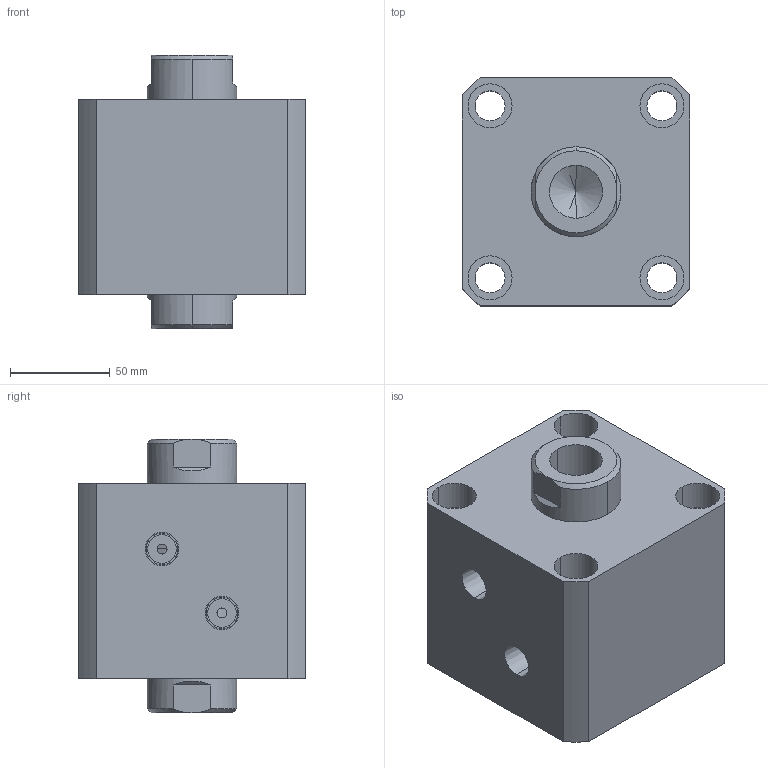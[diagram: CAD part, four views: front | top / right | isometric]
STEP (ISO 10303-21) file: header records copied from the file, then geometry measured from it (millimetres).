
FILE_DESCRIPTION (( 'STEP AP214' ), '1' );
FILE_NAME ('chtb-sw80x5n_asm.STEP', '2018-05-28T00:43:53', ( 'Windows' ), ( 'Microsoft' ), 'SwSTEP 2.0', 'SolidWorks 2015', '' );
FILE_SCHEMA (( 'AUTOMOTIVE_DESIGN' ));
Length unit declared in the file: millimetre
Products named in the file (4): CHTB-SW80X5NBT; CHTB-SD80X5NHSG; CHTB-SD80QG; chtb-sw80x5n_asm
Assembly tree (3 placements, depth 2):
  chtb-sw80x5n_asm
    CHTB-SD80QG
    CHTB-SD80X5NHSG
    CHTB-SW80X5NBT
Bounding box: 114 x 114 x 137 mm (x, y, z)
Volume: 1144151.8 mm3; surface area: 175525.7 mm2
Topology: 3 solids, 3 shells, 208 faces, 550 edges, 365 vertices
Faces by surface type: cylinder 109, plane 42, cone 25, torus 18, bspline 14
Entity records: 15645 total; most frequent: CARTESIAN_POINT 10539, ORIENTED_EDGE 1084, DIRECTION 970, EDGE_CURVE 542, AXIS2_PLACEMENT_3D 407, VERTEX_POINT 365, EDGE_LOOP 249, ADVANCED_FACE 208
